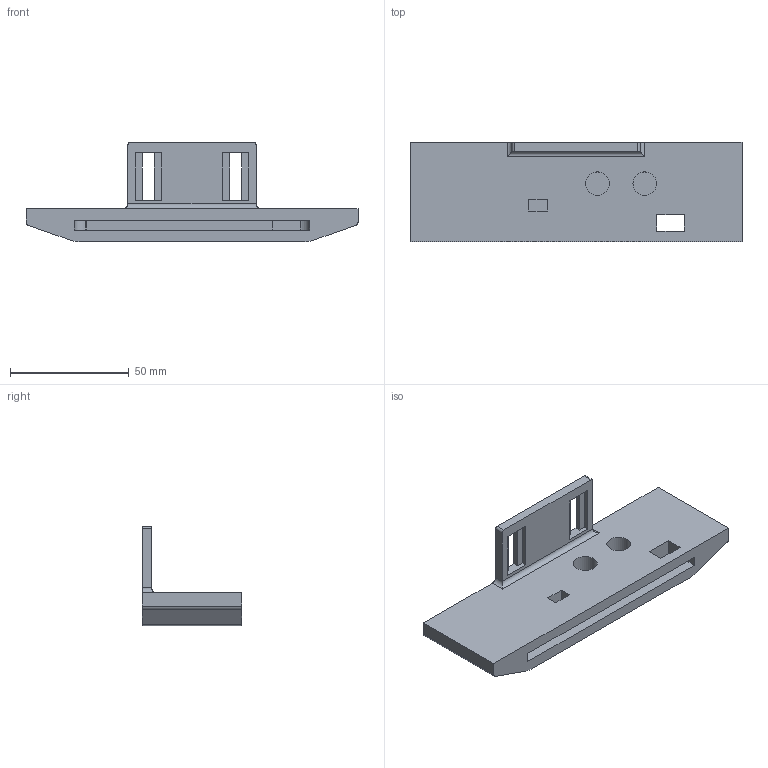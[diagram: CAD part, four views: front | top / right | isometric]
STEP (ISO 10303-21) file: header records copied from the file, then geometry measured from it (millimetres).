
FILE_DESCRIPTION(/* description */ ('STEP AP242','CAx-IF Rec.Pracs.---Representation and Presentation of Product Manufacturing Information (PMI)---4.0---2014-10-13','CAx-IF Rec.Pracs.---3D Tessellated Geometry---0.4---2014-09-14','2;1'),/* implementation_level */ '2;1');
FILE_NAME(/* name */ '68affd0351b0e33d86e9d7b9',/* time_stamp */ '2025-08-28T06:53:56Z',/* author */ (''),/* organization */ (''),/* preprocessor_version */ 'ST-DEVELOPER v20',/* originating_system */ 'ONSHAPE BY PTC INC, 1.202',/* authorisation */ ' ');
FILE_SCHEMA (('AP242_MANAGED_MODEL_BASED_3D_ENGINEERING_MIM_LF { 1 0 10303 442 1 1 4 }'));
Length unit declared in the file: metre
Products named in the file (1): gyunFAD7nv2b
Bounding box: 140 x 42 x 42 mm (x, y, z)
Volume: 74238.8 mm3; surface area: 22073.9 mm2
Topology: 1 solids, 1 shells, 59 faces, 170 edges, 115 vertices
Faces by surface type: plane 45, cylinder 14
Full cylindrical faces by diameter (mm): 10 x2
Entity records: 1949 total; most frequent: CARTESIAN_POINT 341, ORIENTED_EDGE 334, DIRECTION 313, EDGE_CURVE 167, LINE 141, VECTOR 141, VERTEX_POINT 114, AXIS2_PLACEMENT_3D 86
